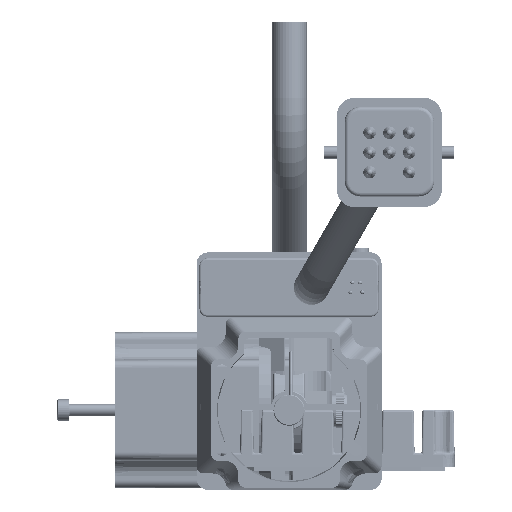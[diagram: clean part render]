
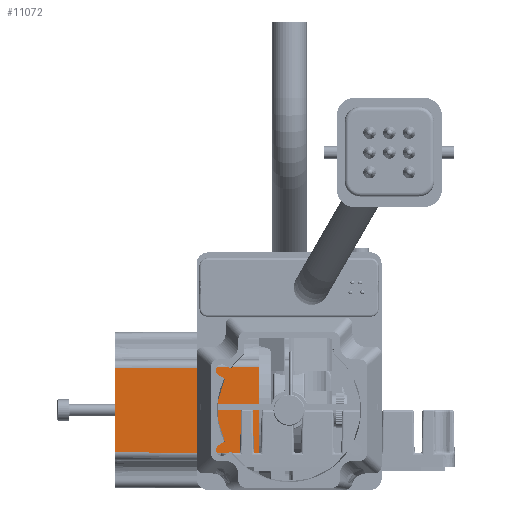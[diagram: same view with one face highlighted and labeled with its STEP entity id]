
A CAD part, front view. The second image highlights one B-rep face of the part: STEP entity #11072.
In plain terms, the highlighted planar face has unit normal (-0.004, -1, 0).
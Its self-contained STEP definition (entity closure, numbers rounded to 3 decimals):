
#11072 = ADVANCED_FACE( '', ( #23402 ), #23403, .T. );
#23402 = FACE_OUTER_BOUND( '', #46669, .T. );
#23403 = PLANE( '', #46670 );
#46669 = EDGE_LOOP( '', ( #73916, #73917, #73918, #73919 ) );
#46670 = AXIS2_PLACEMENT_3D( '', #73920, #73921, #73922 );
#73916 = ORIENTED_EDGE( '', *, *, #83783, .T. );
#73917 = ORIENTED_EDGE( '', *, *, #88204, .T. );
#73918 = ORIENTED_EDGE( '', *, *, #82761, .T. );
#73919 = ORIENTED_EDGE( '', *, *, #87374, .T. );
#73920 = CARTESIAN_POINT( '', ( -7., -20.1, 0. ) );
#73921 = DIRECTION( '', ( -0.004, -1., 0. ) );
#73922 = DIRECTION( '', ( 1., -0.004, 0. ) );
#82761 = EDGE_CURVE( '', #93438, #93439, #93440, .T. );
#83783 = EDGE_CURVE( '', #95136, #95134, #95137, .T. );
#87374 = EDGE_CURVE( '', #93439, #95136, #100427, .T. );
#88204 = EDGE_CURVE( '', #95134, #93438, #101471, .T. );
#93438 = VERTEX_POINT( '', #115072 );
#93439 = VERTEX_POINT( '', #115073 );
#93440 = LINE( '', #115074, #115075 );
#95134 = VERTEX_POINT( '', #118556 );
#95136 = VERTEX_POINT( '', #118558 );
#95137 = LINE( '', #118559, #118560 );
#100427 = LINE( '', #132403, #132404 );
#101471 = LINE( '', #135029, #135030 );
#115072 = CARTESIAN_POINT( '', ( -7.75, -20.097, 10.997 ) );
#115073 = CARTESIAN_POINT( '', ( -44.75, -19.935, 10.835 ) );
#115074 = CARTESIAN_POINT( '', ( -63.491, -19.854, 10.754 ) );
#115075 = VECTOR( '', #143983, 1000. );
#118556 = CARTESIAN_POINT( '', ( -7.75, -20.097, -10.997 ) );
#118558 = CARTESIAN_POINT( '', ( -44.75, -19.935, -10.835 ) );
#118559 = CARTESIAN_POINT( '', ( -6.991, -20.1, -11. ) );
#118560 = VECTOR( '', #145394, 1000. );
#132403 = CARTESIAN_POINT( '', ( -44.75, -19.935, 0. ) );
#132404 = VECTOR( '', #150128, 1000. );
#135029 = CARTESIAN_POINT( '', ( -7.75, -20.097, 0. ) );
#135030 = VECTOR( '', #151098, 1000. );
#143983 = DIRECTION( '', ( -1., 0.004, -0.004 ) );
#145394 = DIRECTION( '', ( 1., -0.004, -0.004 ) );
#150128 = DIRECTION( '', ( 0., 0., -1. ) );
#151098 = DIRECTION( '', ( 0., 0., 1. ) );
